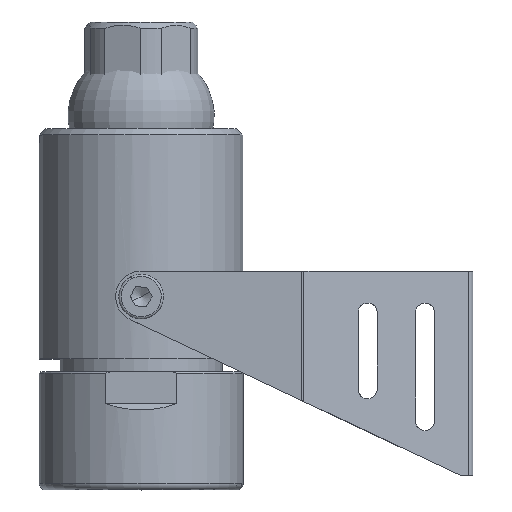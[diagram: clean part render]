
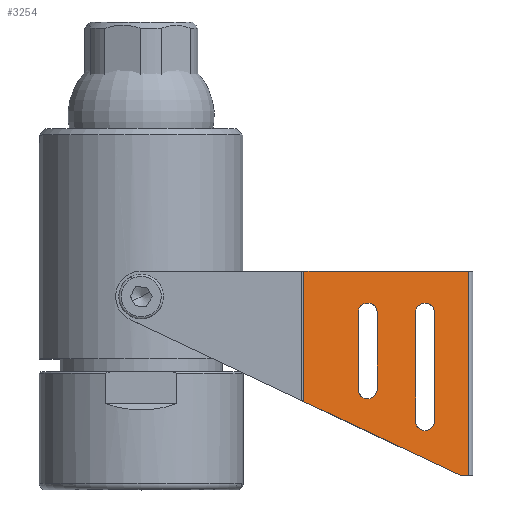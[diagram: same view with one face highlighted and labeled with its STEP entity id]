
A CAD part, top view. The second image highlights one B-rep face of the part: STEP entity #3254.
In plain terms, the highlighted planar face has unit normal (0.342, 0, 0.94) as drawn and (0.94, -0.342, 0) by its records, which use the part's own axes.
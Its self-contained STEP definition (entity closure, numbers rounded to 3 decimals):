
#12=ELLIPSE('',#3490,1.596,1.5);
#13=ELLIPSE('',#3491,1.596,1.5);
#14=ELLIPSE('',#3492,1.596,1.5);
#15=ELLIPSE('',#3493,1.596,1.5);
#1235=VECTOR('',#4912,1.);
#1238=VECTOR('',#4919,1.);
#1239=VECTOR('',#4923,1.);
#1240=VECTOR('',#4926,1.);
#1241=VECTOR('',#4929,1.);
#1242=VECTOR('',#4932,1.);
#1243=VECTOR('',#4933,1.);
#1244=VECTOR('',#4934,1.);
#1245=VECTOR('',#4935,1.);
#1339=LINE('',#4283,#1235);
#1342=LINE('',#4291,#1238);
#1343=LINE('',#4296,#1239);
#1344=LINE('',#4300,#1240);
#1345=LINE('',#4304,#1241);
#1346=LINE('',#4308,#1242);
#1347=LINE('',#4309,#1243);
#1348=LINE('',#4311,#1244);
#1349=LINE('',#4313,#1245);
#1493=PLANE('',#3489);
#1664=VERTEX_POINT('',#4282);
#1665=VERTEX_POINT('',#4284);
#1667=VERTEX_POINT('',#4290);
#1668=VERTEX_POINT('',#4294);
#1669=VERTEX_POINT('',#4295);
#1670=VERTEX_POINT('',#4297);
#1671=VERTEX_POINT('',#4299);
#1672=VERTEX_POINT('',#4302);
#1673=VERTEX_POINT('',#4303);
#1674=VERTEX_POINT('',#4305);
#1675=VERTEX_POINT('',#4307);
#1676=VERTEX_POINT('',#4310);
#1677=VERTEX_POINT('',#4312);
#2018=EDGE_CURVE('',#1665,#1664,#1339,.T.);
#2022=EDGE_CURVE('',#1667,#1664,#1342,.T.);
#2023=EDGE_CURVE('',#1668,#1669,#12,.T.);
#2024=EDGE_CURVE('',#1669,#1670,#1343,.T.);
#2025=EDGE_CURVE('',#1670,#1671,#13,.T.);
#2026=EDGE_CURVE('',#1671,#1668,#1344,.T.);
#2027=EDGE_CURVE('',#1672,#1673,#14,.T.);
#2028=EDGE_CURVE('',#1673,#1674,#1345,.T.);
#2029=EDGE_CURVE('',#1674,#1675,#15,.T.);
#2030=EDGE_CURVE('',#1675,#1672,#1346,.T.);
#2031=EDGE_CURVE('',#1667,#1676,#1347,.T.);
#2032=EDGE_CURVE('',#1677,#1676,#1348,.T.);
#2033=EDGE_CURVE('',#1677,#1665,#1349,.T.);
#2468=ORIENTED_EDGE('',*,*,#2023,.T.);
#2469=ORIENTED_EDGE('',*,*,#2024,.T.);
#2470=ORIENTED_EDGE('',*,*,#2025,.T.);
#2471=ORIENTED_EDGE('',*,*,#2026,.T.);
#2472=ORIENTED_EDGE('',*,*,#2027,.T.);
#2473=ORIENTED_EDGE('',*,*,#2028,.T.);
#2474=ORIENTED_EDGE('',*,*,#2029,.T.);
#2475=ORIENTED_EDGE('',*,*,#2030,.T.);
#2476=ORIENTED_EDGE('',*,*,#2022,.F.);
#2477=ORIENTED_EDGE('',*,*,#2031,.T.);
#2478=ORIENTED_EDGE('',*,*,#2032,.F.);
#2479=ORIENTED_EDGE('',*,*,#2033,.T.);
#2480=ORIENTED_EDGE('',*,*,#2018,.T.);
#2845=EDGE_LOOP('',(#2468,#2469,#2470,#2471));
#2846=EDGE_LOOP('',(#2472,#2473,#2474,#2475));
#2847=EDGE_LOOP('',(#2476,#2477,#2478,#2479,#2480));
#3091=FACE_BOUND('',#2845,.T.);
#3092=FACE_BOUND('',#2846,.T.);
#3093=FACE_BOUND('',#2847,.T.);
#3254=ADVANCED_FACE('',(#3091,#3092,#3093),#1493,.T.);
#3489=AXIS2_PLACEMENT_3D('',#4292,#4920,$);
#3490=AXIS2_PLACEMENT_3D('',#4293,#4921,#4922);
#3491=AXIS2_PLACEMENT_3D('',#4298,#4924,#4925);
#3492=AXIS2_PLACEMENT_3D('',#4301,#4927,#4928);
#3493=AXIS2_PLACEMENT_3D('',#4306,#4930,#4931);
#4282=CARTESIAN_POINT('',(22.541,0.658,32.));
#4283=CARTESIAN_POINT('',(22.301,0.,32.));
#4284=CARTESIAN_POINT('',(23.029,2.,32.));
#4290=CARTESIAN_POINT('',(22.541,0.658,0.));
#4291=CARTESIAN_POINT('',(22.541,0.658,0.));
#4292=CARTESIAN_POINT('',(27.151,13.324,0.));
#4293=CARTESIAN_POINT('',(25.031,7.5,6.5));
#4294=CARTESIAN_POINT('',(25.577,9.,6.5));
#4295=CARTESIAN_POINT('',(24.485,6.,6.5));
#4296=CARTESIAN_POINT('',(24.485,6.,7.5));
#4297=CARTESIAN_POINT('',(24.485,6.,23.5));
#4298=CARTESIAN_POINT('',(25.031,7.5,23.5));
#4299=CARTESIAN_POINT('',(25.577,9.,23.5));
#4300=CARTESIAN_POINT('',(25.577,9.,7.5));
#4301=CARTESIAN_POINT('',(28.307,16.5,6.5));
#4302=CARTESIAN_POINT('',(28.853,18.,6.5));
#4303=CARTESIAN_POINT('',(27.761,15.,6.5));
#4304=CARTESIAN_POINT('',(27.761,15.,6.25));
#4305=CARTESIAN_POINT('',(27.761,15.,18.5));
#4306=CARTESIAN_POINT('',(28.307,16.5,18.5));
#4307=CARTESIAN_POINT('',(28.853,18.,18.5));
#4308=CARTESIAN_POINT('',(28.853,18.,6.25));
#4309=CARTESIAN_POINT('',(22.301,0.,0.));
#4310=CARTESIAN_POINT('',(31.94,26.482,0.));
#4311=CARTESIAN_POINT('',(31.94,26.482,0.));
#4312=CARTESIAN_POINT('',(31.94,26.482,20.456));
#4313=CARTESIAN_POINT('',(31.462,25.169,21.075));
#4912=DIRECTION('',(-0.342,-0.94,0.));
#4919=DIRECTION('',(0.,0.,1.));
#4920=DIRECTION('',(0.94,-0.342,0.));
#4921=DIRECTION('',(-0.94,0.342,0.));
#4922=DIRECTION('',(-0.546,-1.5,0.));
#4923=DIRECTION('',(0.,0.,1.));
#4924=DIRECTION('',(-0.94,0.342,0.));
#4925=DIRECTION('',(-0.546,-1.5,0.));
#4926=DIRECTION('',(0.,0.,-1.));
#4927=DIRECTION('',(-0.94,0.342,0.));
#4928=DIRECTION('',(-0.546,-1.5,0.));
#4929=DIRECTION('',(0.,0.,1.));
#4930=DIRECTION('',(-0.94,0.342,0.));
#4931=DIRECTION('',(-0.546,-1.5,0.));
#4932=DIRECTION('',(0.,0.,-1.));
#4933=DIRECTION('',(0.342,0.94,0.));
#4934=DIRECTION('',(0.,0.,-1.));
#4935=DIRECTION('',(-0.313,-0.859,0.405));
